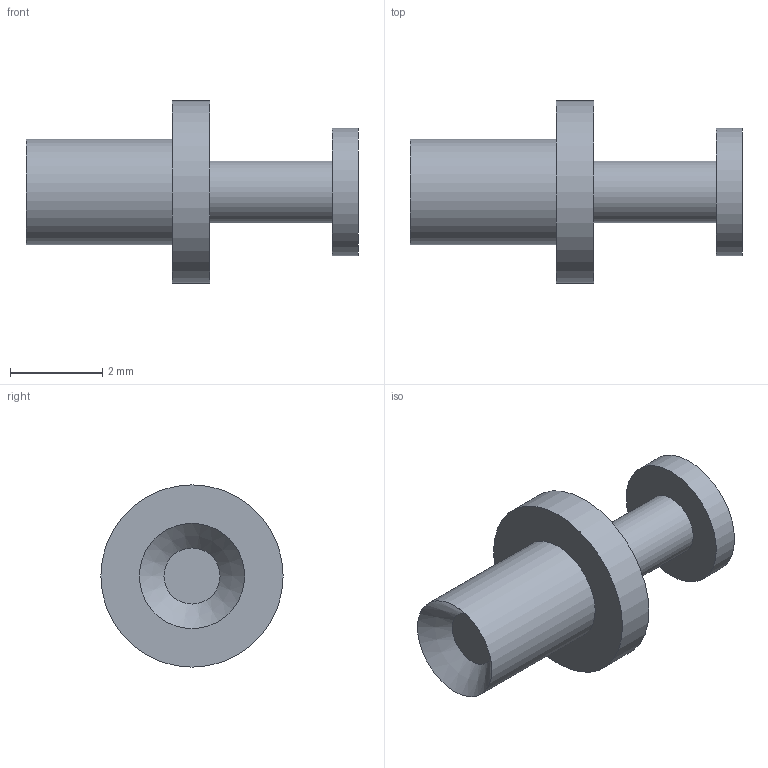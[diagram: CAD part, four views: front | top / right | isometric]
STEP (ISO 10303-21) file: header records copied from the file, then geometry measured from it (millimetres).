
FILE_DESCRIPTION(/* description */ (''),/* implementation_level */ '2;1');
FILE_NAME(/* name */ 'Z:\STEP folder\160-1040-03.ipt.stp',/* time_stamp */ '2016-12-07T10:46:01+00:00',/* author */ ('Paul Karlsons'),/* organization */ (''),/* preprocessor_version */ 'ST-DEVELOPER v15.2',/* originating_system */ 'Autodesk Inventor 2014',/* authorisation */ '');
FILE_SCHEMA (('AUTOMOTIVE_DESIGN { 1 0 10303 214 3 1 1 }'));
Length unit declared in the file: millimetre
Products named in the file (1): 160-1040-03
Bounding box: 7.21 x 3.96 x 3.96 mm (x, y, z)
Volume: 28.9 mm3; surface area: 84.1 mm2
Topology: 1 solids, 1 shells, 10 faces, 14 edges, 9 vertices
Faces by surface type: plane 5, cylinder 4, cone 1
Full cylindrical faces by diameter (mm): 1.346 x1, 2.286 x1, 2.769 x1, 3.96 x1
Entity records: 215 total; most frequent: DIRECTION 40, CARTESIAN_POINT 29, AXIS2_PLACEMENT_3D 20, EDGE_LOOP 18, ORIENTED_EDGE 18, ADVANCED_FACE 10, FACE_BOUND 9, FACE_OUTER_BOUND 9
